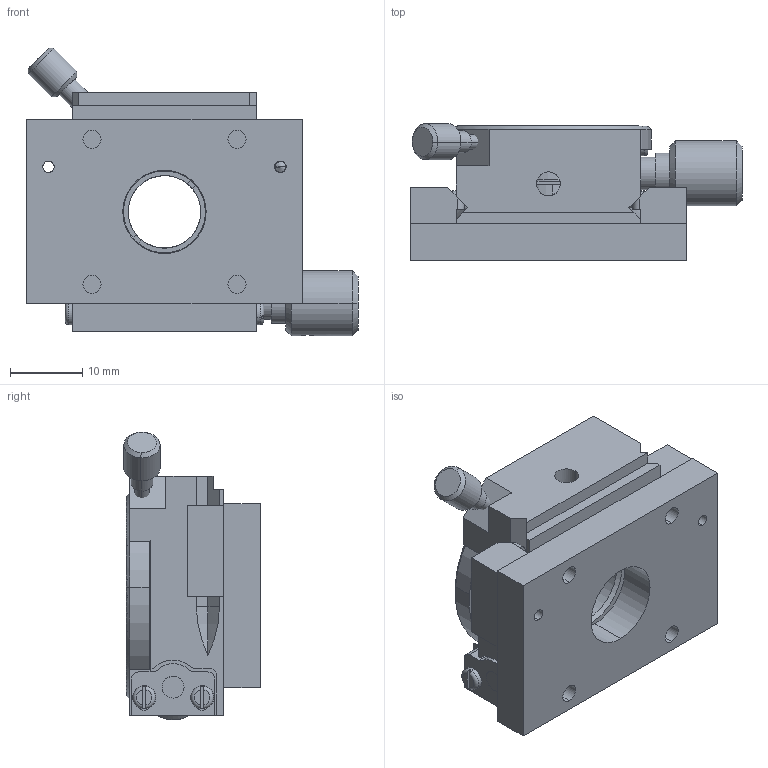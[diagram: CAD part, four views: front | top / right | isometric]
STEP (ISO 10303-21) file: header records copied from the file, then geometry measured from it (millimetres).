
FILE_DESCRIPTION (( 'STEP AP203' ), '1' );
FILE_NAME ('7SRM329Ðý×ªÌ¨.STEP', '2018-07-09T00:34:53', ( '' ), ( '' ), 'SwSTEP 2.0', 'SolidWorks 2014', '' );
FILE_SCHEMA (( 'CONFIG_CONTROL_DESIGN' ));
Length unit declared in the file: millimetre
Products named in the file (1): 7SRM329唅蛌怢
Bounding box: 45.8 x 18.8 x 39.68 mm (x, y, z)
Surface area: 9213.6 mm2 (no closed solid volume)
Topology: 0 solids, 26 shells, 602 faces, 1782 edges, 1181 vertices
Faces by surface type: plane 468, cylinder 94, cone 28, torus 12
Entity records: 20346 total; most frequent: CARTESIAN_POINT 4335, ORIENTED_EDGE 3237, DIRECTION 3207, EDGE_CURVE 1780, VECTOR 1197, LINE 1197, VERTEX_POINT 1181, AXIS2_PLACEMENT_3D 1005
